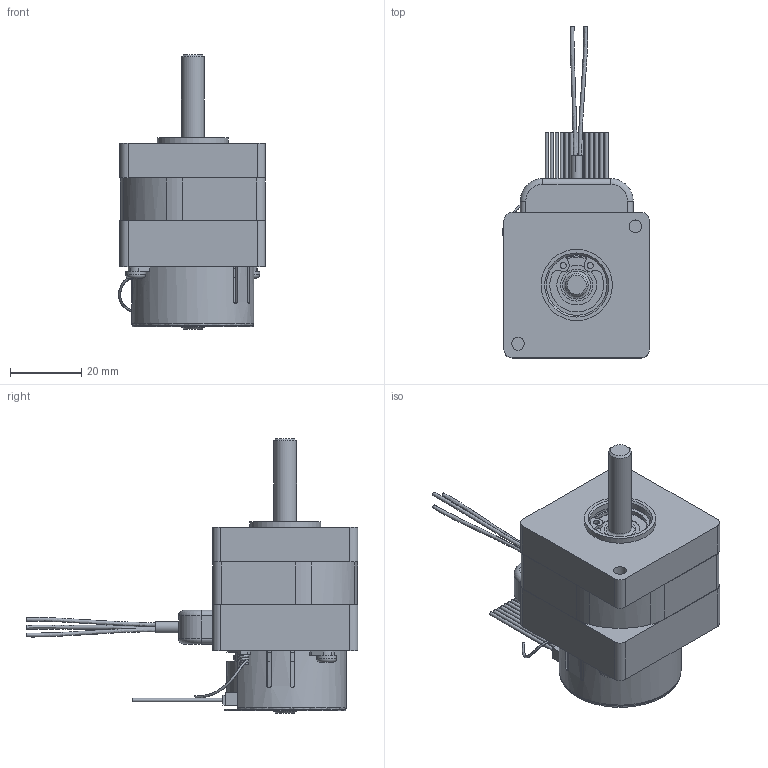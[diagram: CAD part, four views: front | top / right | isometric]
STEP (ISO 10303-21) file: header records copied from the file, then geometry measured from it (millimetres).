
FILE_DESCRIPTION((''),'2;1');
FILE_NAME('C:\CAD_work\Dummy_Modeling_Project_02-12-05\3D MODELS\BE161_FO.stp','2005-12-20T15:15:20',('jevans'),(''),'Autodesk Inventor 10','Autodesk Inventor 10','');
FILE_SCHEMA(('AUTOMOTIVE_DESIGN { 1 0 10303 214 1 1 1 1 }'));
Length unit declared in the file: inch
Products named in the file (1): BE16_FO
Bounding box: 41.3 x 93.29 x 77.09 mm (x, y, z)
Volume: 65346.3 mm3; surface area: 22597.6 mm2
Topology: 1 solids, 2 shells, 315 faces, 767 edges, 486 vertices
Faces by surface type: plane 188, cylinder 94, bspline 14, cone 11, torus 8
Full cylindrical faces by diameter (mm): 1.016 x13, 1.575 x1, 1.7 x2, 2.388 x1, 3.175 x1, 6.35 x2, 8.992 x1, 10.16 x1, 10.312 x1, 11.176 x2, 15.697 x1, 17 x1, 17.005 x2, 18.009 x1, 19.558 x1, 20.015 x1, 32.995 x1, 34.036 x1, 37.211 x1
Entity records: 10984 total; most frequent: CARTESIAN_POINT 3775, DIRECTION 1488, ORIENTED_EDGE 1428, EDGE_CURVE 714, AXIS2_PLACEMENT_3D 565, VERTEX_POINT 478, EDGE_LOOP 413, VECTOR 358
